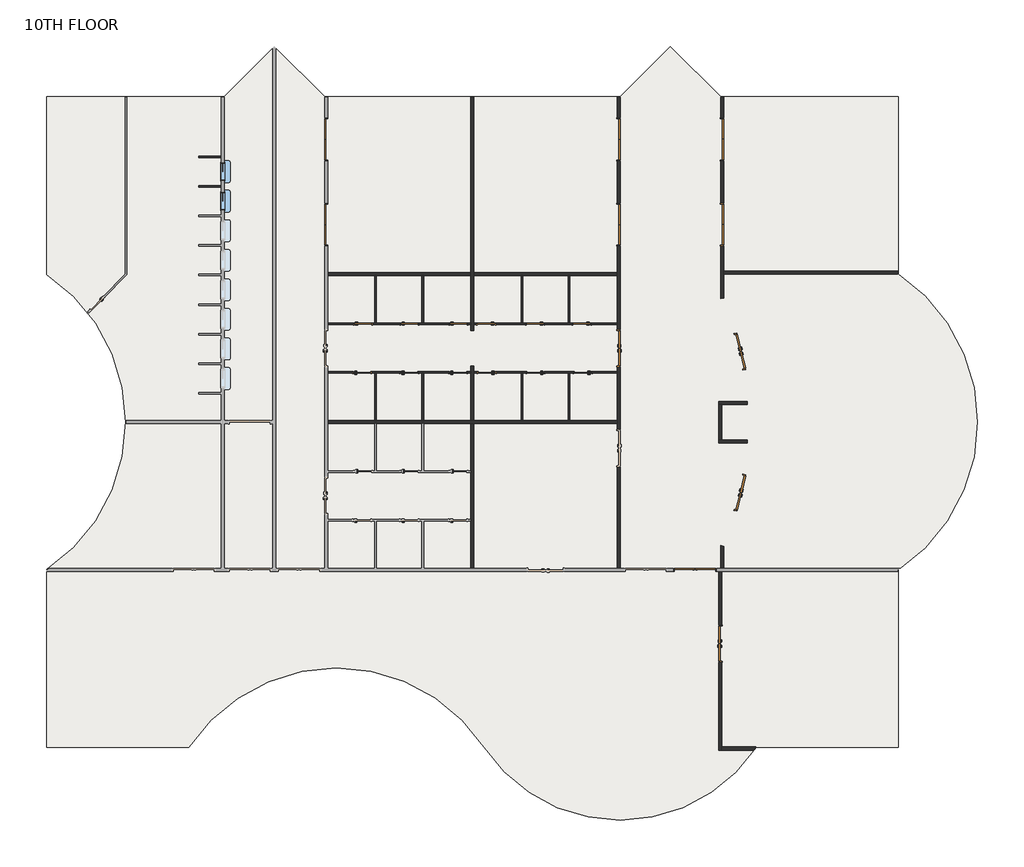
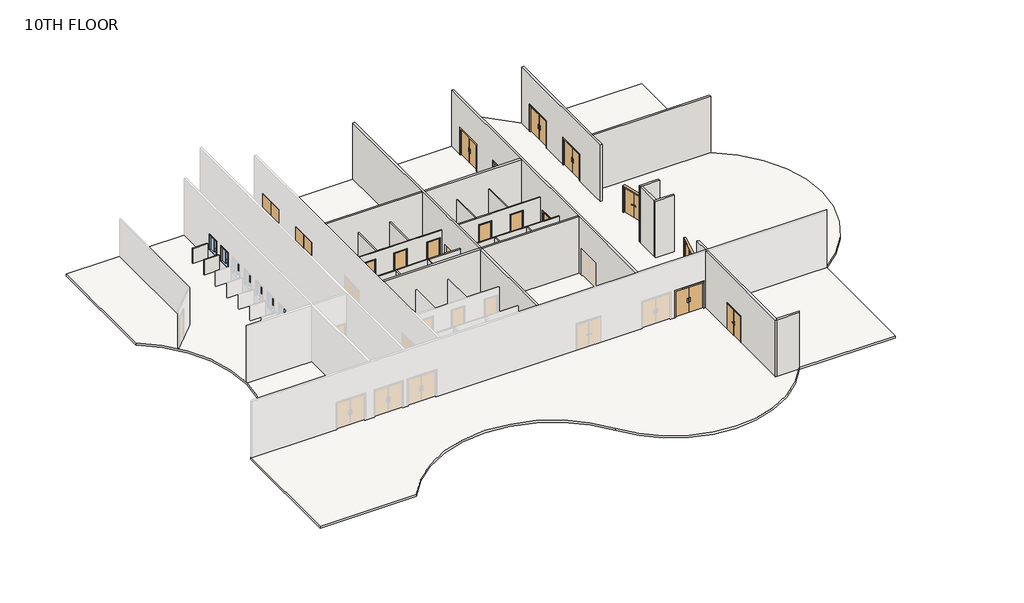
# One storey, part 2 of 2: 26 walls, 23 doors, 2 windows, 1 slab.
"""IFC4 building model written with IfcOpenShell, lengths in millimetres."""

from ifc_helpers import new_model, si_unit, point, frame, frame_2d, origin, place, context, project, spatial, polyline, circle_curve, trimmed, segment, composite_curve, outline, extrude, faceted_brep, transform, mapped, element, save
from ifc_brep_helpers import plane_surface, cylinder_surface, advanced_brep
from components import door_2f250f70, door_df8e76c5, door_0b13e4d9, door_b3a27a16, door_979b1b8c, door_f8b587be, pass_thru_4x3_19d81059

model = new_model("IFC4")

# Units and contexts
model_context = context("Model", 3, world=origin())
ifc_project = project(units=[si_unit("LENGTHUNIT", "METRE", prefix="MILLI")], contexts=[model_context])

# Site, building, storey
site = spatial("IfcSite", under=ifc_project)
building = spatial("IfcBuilding", under=site)
storey = spatial("IfcBuildingStorey", under=building, Name="10TH FLOOR", Elevation=45720.0)

# Doors
placement = place(None, origin())
door_shape = door_2f250f70(model_context)
element("IfcDoor", 1, ObjectType="Door-Passage-Double-Flush : 72\" x 82\"", at=placement, inside=storey, context=model_context, shape_type="MappedRepresentation", body=[
    mapped(door_shape, transform((35885.2621514, 20561.4429091, 45720.0), x_axis=(0.23975975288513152, -0.9708322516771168, 0.0), y_axis=(0.9708322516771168, 0.23975975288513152, 0.0), z_axis=(0.0, 0.0, 1.0))),
])
element("IfcDoor", 2, ObjectType="Door-Passage-Double-Flush : 72\" x 82\"", at=placement, inside=storey, context=model_context, shape_type="MappedRepresentation", body=[
    mapped(door_shape, transform((34887.5089577, 5494.3375, 45720.0), x_axis=(0.0, 1.0, 0.0), y_axis=(-1.0, 0.0, 0.0), z_axis=(0.0, 0.0, 1.0))),
])
door_2_shape = door_df8e76c5(model_context)
element("IfcDoor", 3, ObjectType="Door-Passage-Double-Flush : 72\" x 82\"", at=placement, inside=storey, context=model_context, shape_type="MappedRepresentation", body=[
    mapped(door_2_shape, transform((35886.7385063, 13277.3403388, 45720.0), x_axis=(0.23936619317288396, 0.9709293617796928, 0.0), y_axis=(-0.9709293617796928, 0.23936619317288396, 0.0), z_axis=(0.0, 0.0, 1.0))),
])
element("IfcDoor", 4, ObjectType="Door-Passage-Double-Flush : 72\" x 82\"", at=placement, inside=storey, context=model_context, shape_type="MappedRepresentation", body=[
    mapped(door_2_shape, transform((29628.0650257, 20729.575, 45720.0), x_axis=(0.0, 1.0, 0.0), y_axis=(-1.0, 0.0, 0.0), z_axis=(0.0, 0.0, 1.0))),
])
door_3_shape = door_0b13e4d9(model_context)
element("IfcDoor", 5, ObjectType="Door-Passage-Double-Flush-Dbl_Acting : 84\" x 84\"", at=placement, inside=storey, context=model_context, shape_type="MappedRepresentation", body=[
    mapped(door_3_shape, transform((33564.0300515, 9293.225, 45720.0), x_axis=(-1.0, 0.0, 0.0), y_axis=(0.0, -1.0, 0.0), z_axis=(0.0, 0.0, 1.0))),
])
element("IfcDoor", 6, ObjectType="Door-Passage-Double-Flush-Dbl_Acting : 84\" x 84\"", at=placement, inside=storey, context=model_context, shape_type="MappedRepresentation", body=[
    mapped(door_3_shape, transform((29628.0650257, 31499.175, 45720.0), x_axis=(0.0, 1.0, 0.0), y_axis=(-1.0, 0.0, 0.0), z_axis=(0.0, 0.0, 1.0))),
])
element("IfcDoor", 7, ObjectType="Door-Passage-Double-Flush-Dbl_Acting : 84\" x 84\"", at=placement, inside=storey, context=model_context, shape_type="MappedRepresentation", body=[
    mapped(door_3_shape, transform((29628.0650257, 27101.8, 45720.0), x_axis=(0.0, 1.0, 0.0), y_axis=(-1.0, 0.0, 0.0), z_axis=(0.0, 0.0, 1.0))),
])
door_4_shape = door_b3a27a16(model_context)
element("IfcDoor", 8, ObjectType="Door-Passage-Double-Flush-Dbl_Acting : 84\" x 84\"", at=placement, inside=storey, context=model_context, shape_type="MappedRepresentation", body=[
    mapped(door_4_shape, transform((14556.3400257, 31499.175, 45720.0), x_axis=(0.0, 1.0, 0.0), y_axis=(-1.0, 0.0, 0.0), z_axis=(0.0, 0.0, 1.0))),
])
element("IfcDoor", 9, ObjectType="Door-Passage-Double-Flush-Dbl_Acting : 84\" x 84\"", at=placement, inside=storey, context=model_context, shape_type="MappedRepresentation", body=[
    mapped(door_4_shape, transform((14556.3400257, 27101.8, 45720.0), x_axis=(0.0, 1.0, 0.0), y_axis=(-1.0, 0.0, 0.0), z_axis=(0.0, 0.0, 1.0))),
])
element("IfcDoor", 10, ObjectType="Door-Passage-Double-Flush-Dbl_Acting : 84\" x 84\"", at=placement, inside=storey, context=model_context, shape_type="MappedRepresentation", body=[
    mapped(door_4_shape, transform((34956.2675515, 31499.175, 45720.0), x_axis=(0.0, -1.0, 0.0), y_axis=(1.0, 0.0, 0.0), z_axis=(0.0, 0.0, 1.0))),
])
element("IfcDoor", 11, ObjectType="Door-Passage-Double-Flush-Dbl_Acting : 84\" x 84\"", at=placement, inside=storey, context=model_context, shape_type="MappedRepresentation", body=[
    mapped(door_4_shape, transform((34956.2675515, 27101.8, 45720.0), x_axis=(0.0, -1.0, 0.0), y_axis=(1.0, 0.0, 0.0), z_axis=(0.0, 0.0, 1.0))),
])
door_5_shape = door_979b1b8c(model_context)
element("IfcDoor", 12, ObjectType="Door-Passage-Single-Flush : 36\" x 96\"", at=placement, inside=storey, context=model_context, shape_type="MappedRepresentation", body=[
    mapped(door_5_shape, transform((16456.5775257, 21977.35, 45720.0), x_axis=(1.0, 0.0, 0.0), y_axis=(0.0, 1.0, 0.0), z_axis=(0.0, 0.0, 1.0))),
])
element("IfcDoor", 13, ObjectType="Door-Passage-Single-Flush : 36\" x 96\"", at=placement, inside=storey, context=model_context, shape_type="MappedRepresentation", body=[
    mapped(door_5_shape, transform((18855.2900257, 21977.35, 45720.0), x_axis=(1.0, 0.0, 0.0), y_axis=(0.0, 1.0, 0.0), z_axis=(0.0, 0.0, 1.0))),
])
element("IfcDoor", 14, ObjectType="Door-Passage-Single-Flush : 36\" x 96\"", at=placement, inside=storey, context=model_context, shape_type="MappedRepresentation", body=[
    mapped(door_5_shape, transform((21373.0650257, 21977.35, 45720.0), x_axis=(1.0, 0.0, 0.0), y_axis=(0.0, 1.0, 0.0), z_axis=(0.0, 0.0, 1.0))),
])
element("IfcDoor", 15, ObjectType="Door-Passage-Single-Flush : 36\" x 96\"", at=placement, inside=storey, context=model_context, shape_type="MappedRepresentation", body=[
    mapped(door_5_shape, transform((27778.6275257, 19481.8, 45720.0), x_axis=(-1.0, 0.0, 0.0), y_axis=(0.0, -1.0, 0.0), z_axis=(0.0, 0.0, 1.0))),
])
element("IfcDoor", 16, ObjectType="Door-Passage-Single-Flush : 36\" x 96\"", at=placement, inside=storey, context=model_context, shape_type="MappedRepresentation", body=[
    mapped(door_5_shape, transform((25348.1650257, 19481.8, 45720.0), x_axis=(-1.0, 0.0, 0.0), y_axis=(0.0, -1.0, 0.0), z_axis=(0.0, 0.0, 1.0))),
])
element("IfcDoor", 17, ObjectType="Door-Passage-Single-Flush : 36\" x 96\"", at=placement, inside=storey, context=model_context, shape_type="MappedRepresentation", body=[
    mapped(door_5_shape, transform((22830.3900257, 19481.8, 45720.0), x_axis=(-1.0, 0.0, 0.0), y_axis=(0.0, -1.0, 0.0), z_axis=(0.0, 0.0, 1.0))),
])
door_6_shape = door_f8b587be(model_context)
element("IfcDoor", 18, ObjectType="Door-Passage-Single-Flush : 36\" x 96\"", at=placement, inside=storey, context=model_context, shape_type="MappedRepresentation", body=[
    mapped(door_6_shape, transform((16405.7775257, 19481.8, 45720.0), x_axis=(1.0, 0.0, 0.0), y_axis=(0.0, 1.0, 0.0), z_axis=(0.0, 0.0, 1.0))),
])
element("IfcDoor", 19, ObjectType="Door-Passage-Single-Flush : 36\" x 96\"", at=placement, inside=storey, context=model_context, shape_type="MappedRepresentation", body=[
    mapped(door_6_shape, transform((18836.2400257, 19481.8, 45720.0), x_axis=(1.0, 0.0, 0.0), y_axis=(0.0, 1.0, 0.0), z_axis=(0.0, 0.0, 1.0))),
])
element("IfcDoor", 20, ObjectType="Door-Passage-Single-Flush : 36\" x 96\"", at=placement, inside=storey, context=model_context, shape_type="MappedRepresentation", body=[
    mapped(door_6_shape, transform((21354.0150257, 19481.8, 45720.0), x_axis=(1.0, 0.0, 0.0), y_axis=(0.0, 1.0, 0.0), z_axis=(0.0, 0.0, 1.0))),
])
element("IfcDoor", 21, ObjectType="Door-Passage-Single-Flush : 36\" x 96\"", at=placement, inside=storey, context=model_context, shape_type="MappedRepresentation", body=[
    mapped(door_6_shape, transform((27727.8275257, 21977.35, 45720.0), x_axis=(-1.0, 0.0, 0.0), y_axis=(0.0, -1.0, 0.0), z_axis=(0.0, 0.0, 1.0))),
])
element("IfcDoor", 22, ObjectType="Door-Passage-Single-Flush : 36\" x 96\"", at=placement, inside=storey, context=model_context, shape_type="MappedRepresentation", body=[
    mapped(door_6_shape, transform((25329.1150257, 21977.35, 45720.0), x_axis=(-1.0, 0.0, 0.0), y_axis=(0.0, -1.0, 0.0), z_axis=(0.0, 0.0, 1.0))),
])
element("IfcDoor", 23, ObjectType="Door-Passage-Single-Flush : 36\" x 96\"", at=placement, inside=storey, context=model_context, shape_type="MappedRepresentation", body=[
    mapped(door_6_shape, transform((22811.3400257, 21977.35, 45720.0), x_axis=(-1.0, 0.0, 0.0), y_axis=(0.0, -1.0, 0.0), z_axis=(0.0, 0.0, 1.0))),
])

# Slab
element("IfcSlab", 24, ObjectType="ARCHITECTURAL FINISH FLOOR", at=placement, inside=storey, context=model_context, shape_type="SweptSolid", body=[
    extrude(outline(composite_curve([segment(polyline([(9294.3144878, 33696.275), (11885.8887629, 36287.8492751), (14477.463038, 33696.275), (29706.9420135, 33696.275), (32298.5162886, 36287.8492751), (34890.0905637, 33696.275), (44041.5300515, 33696.275), (44041.5300515, 24546.3877275)]), True, "CONTINUOUS"), segment(trimmed(circle_curve(frame_2d((38974.293871, 16919.575)), 9156.7), [point((44041.5300515, 24546.3877275))], [point((44041.5300515, 9292.7622725))], False, "CARTESIAN"), True, "CONTINUOUS"), segment(polyline([(44041.5300515, 9292.7622725), (44041.5300515, 142.875), (36720.4425102, 142.875)]), True, "CONTINUOUS"), segment(trimmed(circle_curve(frame_2d((29712.2025257, 4799.7966199)), 8414.4130309), [point((36720.4425102, 142.875))], [point((22700.1916667, 148.5548109))], False, "CARTESIAN"), True, "CONTINUOUS"), segment(trimmed(circle_curve(frame_2d((15090.775, -4898.9611805)), 9131.3), [point((22700.1916667, 148.5548109))], [point((7477.593824, 142.875))], True, "CARTESIAN"), True, "CONTINUOUS"), segment(polyline([(7477.593824, 142.875), (142.875, 142.875), (142.875, 9306.393824)]), True, "CONTINUOUS"), segment(trimmed(circle_curve(frame_2d((-4898.9611805, 16919.575)), 9131.3), [point((142.875, 9306.393824))], [point((142.875, 24532.756176))], True, "CARTESIAN"), True, "CONTINUOUS"), segment(polyline([(142.875, 24532.756176), (142.875, 33696.275), (9294.3144878, 33696.275)]), True, "CONTINUOUS")], self_intersect=False)), frame((0.0, 0.0, 45567.6), z_axis=(0.0, 0.0, 1.0), x_axis=(1.0, 0.0, 0.0)), (0.0, 0.0, 1.0), 171.45),
])

# Walls
element("IfcWall", 25, ObjectType="SYR_INT_ONE_HOUR", at=placement, inside=storey, context=model_context, shape_type="SweptSolid", body=[
    extrude(outline(polyline([(17066.1775257, 22023.3875), (17066.1775257, 24461.7875), (17145.5525257, 24461.7875), (17145.5525257, 22023.3875), (17066.1775257, 22023.3875)])), frame((0.0, 0.0, 45720.0), z_axis=(0.0, 0.0, 1.0), x_axis=(1.0, 0.0, 0.0)), (0.0, 0.0, 1.0), 3048.0),
])
element("IfcWall", 26, ObjectType="SYR_INT_ONE_HOUR", at=placement, inside=storey, context=model_context, shape_type="SweptSolid", body=[
    extrude(outline(polyline([(19576.0150257, 19435.7625), (19576.0150257, 16997.3625), (19496.6400257, 16997.3625), (19496.6400257, 19435.7625), (19576.0150257, 19435.7625)])), frame((0.0, 0.0, 45720.0), z_axis=(0.0, 0.0, 1.0), x_axis=(1.0, 0.0, 0.0)), (0.0, 0.0, 1.0), 3048.0),
])
element("IfcWall", 27, ObjectType="SYR_INT_ONE_HOUR", at=placement, inside=storey, context=model_context, shape_type="Brep", body=[
    faceted_brep([(14627.7775257, 22023.3875, 48768.0), (17066.1775257, 22023.3875, 48768.0), (17145.5525257, 22023.3875, 48768.0), (19496.6400257, 22023.3875, 48768.0), (19576.0150257, 22023.3875, 48768.0), (22014.4150257, 22023.3875, 48768.0), (22014.4150257, 22023.3875, 45720.0), (21862.0150257, 22023.3875, 45720.0), (21862.0150257, 22023.3875, 48190.15), (20884.1150257, 22023.3875, 48190.15), (20884.1150257, 22023.3875, 45720.0), (19576.0150257, 22023.3875, 45720.0), (19496.6400257, 22023.3875, 45720.0), (19344.2400257, 22023.3875, 45720.0), (19344.2400257, 22023.3875, 48190.15), (18366.3400257, 22023.3875, 48190.15), (18366.3400257, 22023.3875, 45720.0), (17145.5525257, 22023.3875, 45720.0), (17066.1775257, 22023.3875, 45720.0), (16945.5275257, 22023.3875, 45720.0), (16945.5275257, 22023.3875, 48190.15), (15967.6275257, 22023.3875, 48190.15), (15967.6275257, 22023.3875, 45720.0), (14627.7775257, 22023.3875, 45720.0), (22014.4150257, 21944.0125, 48768.0), (14627.7775257, 21944.0125, 48768.0), (14627.7775257, 21944.0125, 45720.0), (15967.6275257, 21944.0125, 45720.0), (15967.6275257, 21944.0125, 48190.15), (16945.5275257, 21944.0125, 48190.15), (16945.5275257, 21944.0125, 45720.0), (18366.3400257, 21944.0125, 45720.0), (18366.3400257, 21944.0125, 48190.15), (19344.2400257, 21944.0125, 48190.15), (19344.2400257, 21944.0125, 45720.0), (20884.1150257, 21944.0125, 45720.0), (20884.1150257, 21944.0125, 48190.15), (21862.0150257, 21944.0125, 48190.15), (21862.0150257, 21944.0125, 45720.0), (22014.4150257, 21944.0125, 45720.0)], [[[0, 1, 2, 3, 4, 5, 6, 7, 8, 9, 10, 11, 12, 13, 14, 15, 16, 17, 18, 19, 20, 21, 22, 23]], [[24, 25, 26, 27, 28, 29, 30, 31, 32, 33, 34, 35, 36, 37, 38, 39]], [[23, 22, 27, 26]], [[30, 19, 18, 17, 16, 31]], [[34, 13, 12, 11, 10, 35]], [[6, 39, 38, 7]], [[5, 4, 3, 2, 1, 0, 25, 24]], [[29, 20, 19, 30]], [[20, 29, 28, 21]], [[21, 28, 27, 22]], [[14, 13, 34, 33]], [[15, 14, 33, 32]], [[16, 15, 32, 31]], [[37, 8, 7, 38]], [[8, 37, 36, 9]], [[9, 36, 35, 10]], [[0, 23, 26, 25]], [[6, 5, 24, 39]]]),
])
element("IfcWall", 28, ObjectType="SYR_INT_ONE_HOUR", at=placement, inside=storey, context=model_context, shape_type="Brep", body=[
    faceted_brep([(14627.7775257, 19515.1375, 48768.0), (22014.4150257, 19515.1375, 48768.0), (22014.4150257, 19515.1375, 45720.0), (21842.9650257, 19515.1375, 45720.0), (21842.9650257, 19515.1375, 48190.15), (20865.0650257, 19515.1375, 48190.15), (20865.0650257, 19515.1375, 45720.0), (19325.1900257, 19515.1375, 45720.0), (19325.1900257, 19515.1375, 48190.15), (18347.2900257, 19515.1375, 48190.15), (18347.2900257, 19515.1375, 45720.0), (16894.7275257, 19515.1375, 45720.0), (16894.7275257, 19515.1375, 48190.15), (15916.8275257, 19515.1375, 48190.15), (15916.8275257, 19515.1375, 45720.0), (14627.7775257, 19515.1375, 45720.0), (22014.4150257, 19435.7625, 48768.0), (19576.0150257, 19435.7625, 48768.0), (19496.6400257, 19435.7625, 48768.0), (17145.5525257, 19435.7625, 48768.0), (17066.1775257, 19435.7625, 48768.0), (14627.7775257, 19435.7625, 48768.0), (14627.7775257, 19435.7625, 45720.0), (15916.8275257, 19435.7625, 45720.0), (15916.8275257, 19435.7625, 48190.15), (16894.7275257, 19435.7625, 48190.15), (16894.7275257, 19435.7625, 45720.0), (17066.1775257, 19435.7625, 45720.0), (17145.5525257, 19435.7625, 45720.0), (18347.2900257, 19435.7625, 45720.0), (18347.2900257, 19435.7625, 48190.15), (19325.1900257, 19435.7625, 48190.15), (19325.1900257, 19435.7625, 45720.0), (19496.6400257, 19435.7625, 45720.0), (19576.0150257, 19435.7625, 45720.0), (20865.0650257, 19435.7625, 45720.0), (20865.0650257, 19435.7625, 48190.15), (21842.9650257, 19435.7625, 48190.15), (21842.9650257, 19435.7625, 45720.0), (22014.4150257, 19435.7625, 45720.0)], [[[0, 1, 2, 3, 4, 5, 6, 7, 8, 9, 10, 11, 12, 13, 14, 15]], [[16, 17, 18, 19, 20, 21, 22, 23, 24, 25, 26, 27, 28, 29, 30, 31, 32, 33, 34, 35, 36, 37, 38, 39]], [[15, 14, 23, 22]], [[26, 11, 10, 29, 28, 27]], [[32, 7, 6, 35, 34, 33]], [[2, 39, 38, 3]], [[1, 0, 21, 20, 19, 18, 17, 16]], [[25, 12, 11, 26]], [[12, 25, 24, 13]], [[13, 24, 23, 14]], [[31, 8, 7, 32]], [[8, 31, 30, 9]], [[9, 30, 29, 10]], [[37, 4, 3, 38]], [[4, 37, 36, 5]], [[5, 36, 35, 6]], [[0, 15, 22, 21]], [[2, 1, 16, 39]]]),
])
element("IfcWall", 29, ObjectType="SYR_INT_ONE_HOUR", at=placement, inside=storey, context=model_context, shape_type="SweptSolid", body=[
    extrude(outline(polyline([(17066.1775257, 16997.3625), (17066.1775257, 19435.7625), (17145.5525257, 19435.7625), (17145.5525257, 16997.3625), (17066.1775257, 16997.3625)])), frame((0.0, 0.0, 45720.0), z_axis=(0.0, 0.0, 1.0), x_axis=(1.0, 0.0, 0.0)), (0.0, 0.0, 1.0), 3048.0),
])
element("IfcWall", 30, ObjectType="SYR_INT_ONE_HOUR", at=placement, inside=storey, context=model_context, shape_type="SweptSolid", body=[
    extrude(outline(polyline([(19576.0150257, 24461.7875), (19576.0150257, 22023.3875), (19496.6400257, 22023.3875), (19496.6400257, 24461.7875), (19576.0150257, 24461.7875)])), frame((0.0, 0.0, 45720.0), z_axis=(0.0, 0.0, 1.0), x_axis=(1.0, 0.0, 0.0)), (0.0, 0.0, 1.0), 3048.0),
])
element("IfcWall", 31, ObjectType="SYR_INT_ONE_HOUR", at=placement, inside=storey, context=model_context, shape_type="SweptSolid", body=[
    extrude(outline(polyline([(7979.2710938, 29111.575), (9144.0, 29111.575), (9144.0, 29032.2), (7979.2710938, 29032.2), (7979.2710938, 29111.575)])), frame((0.0, 0.0, 45720.0), z_axis=(0.0, 0.0, 1.0), x_axis=(1.0, 0.0, 0.0)), (0.0, 0.0, 1.0), 1219.2),
])
element("IfcWall", 32, ObjectType="SYR_INT_ONE_HOUR", at=placement, inside=storey, context=model_context, shape_type="SweptSolid", body=[
    extrude(outline(polyline([(7979.2710938, 30635.575), (9144.0, 30635.575), (9144.0, 30556.2), (7979.2710938, 30556.2), (7979.2710938, 30635.575)])), frame((0.0, 0.0, 45720.0), z_axis=(0.0, 0.0, 1.0), x_axis=(1.0, 0.0, 0.0)), (0.0, 0.0, 1.0), 1219.2),
])
element("IfcWall", 33, ObjectType="SYR_INT_ONE_HOUR", at=placement, inside=storey, context=model_context, shape_type="SweptSolid", body=[
    extrude(outline(polyline([(27038.8525257, 22023.3875), (27038.8525257, 24461.7875), (27118.2275257, 24461.7875), (27118.2275257, 22023.3875), (27038.8525257, 22023.3875)])), frame((0.0, 0.0, 45720.0), z_axis=(0.0, 0.0, 1.0), x_axis=(1.0, 0.0, 0.0)), (0.0, 0.0, 1.0), 3048.0),
])
element("IfcWall", 34, ObjectType="SYR_INT_ONE_HOUR", at=placement, inside=storey, context=model_context, shape_type="SweptSolid", body=[
    extrude(outline(polyline([(24687.7650257, 19435.7625), (24687.7650257, 16997.3625), (24608.3900257, 16997.3625), (24608.3900257, 19435.7625), (24687.7650257, 19435.7625)])), frame((0.0, 0.0, 45720.0), z_axis=(0.0, 0.0, 1.0), x_axis=(1.0, 0.0, 0.0)), (0.0, 0.0, 1.0), 3048.0),
])
element("IfcWall", 35, ObjectType="SYR_INT_ONE_HOUR", at=placement, inside=storey, context=model_context, shape_type="Brep", body=[
    faceted_brep([(29556.6275257, 21944.0125, 48768.0), (22169.9900257, 21944.0125, 48768.0), (22169.9900257, 21944.0125, 45720.0), (22322.3900257, 21944.0125, 45720.0), (22322.3900257, 21944.0125, 48190.15), (23300.2900257, 21944.0125, 48190.15), (23300.2900257, 21944.0125, 45720.0), (24840.1650257, 21944.0125, 45720.0), (24840.1650257, 21944.0125, 48190.15), (25818.0650257, 21944.0125, 48190.15), (25818.0650257, 21944.0125, 45720.0), (27238.8775257, 21944.0125, 45720.0), (27238.8775257, 21944.0125, 48190.15), (28216.7775257, 21944.0125, 48190.15), (28216.7775257, 21944.0125, 45720.0), (29556.6275257, 21944.0125, 45720.0), (22169.9900257, 22023.3875, 48768.0), (24608.3900257, 22023.3875, 48768.0), (24687.7650257, 22023.3875, 48768.0), (27038.8525257, 22023.3875, 48768.0), (27118.2275257, 22023.3875, 48768.0), (29556.6275257, 22023.3875, 48768.0), (29556.6275257, 22023.3875, 45720.0), (28216.7775257, 22023.3875, 45720.0), (28216.7775257, 22023.3875, 48190.15), (27238.8775257, 22023.3875, 48190.15), (27238.8775257, 22023.3875, 45720.0), (27118.2275257, 22023.3875, 45720.0), (27038.8525257, 22023.3875, 45720.0), (25818.0650257, 22023.3875, 45720.0), (25818.0650257, 22023.3875, 48190.15), (24840.1650257, 22023.3875, 48190.15), (24840.1650257, 22023.3875, 45720.0), (24687.7650257, 22023.3875, 45720.0), (24608.3900257, 22023.3875, 45720.0), (23300.2900257, 22023.3875, 45720.0), (23300.2900257, 22023.3875, 48190.15), (22322.3900257, 22023.3875, 48190.15), (22322.3900257, 22023.3875, 45720.0), (22169.9900257, 22023.3875, 45720.0)], [[[0, 1, 2, 3, 4, 5, 6, 7, 8, 9, 10, 11, 12, 13, 14, 15]], [[16, 17, 18, 19, 20, 21, 22, 23, 24, 25, 26, 27, 28, 29, 30, 31, 32, 33, 34, 35, 36, 37, 38, 39]], [[15, 14, 23, 22]], [[26, 11, 10, 29, 28, 27]], [[32, 7, 6, 35, 34, 33]], [[2, 39, 38, 3]], [[1, 0, 21, 20, 19, 18, 17, 16]], [[25, 12, 11, 26]], [[12, 25, 24, 13]], [[13, 24, 23, 14]], [[8, 7, 32, 31]], [[9, 8, 31, 30]], [[10, 9, 30, 29]], [[37, 4, 3, 38]], [[4, 37, 36, 5]], [[5, 36, 35, 6]], [[0, 15, 22, 21]], [[2, 1, 16, 39]]]),
])
element("IfcWall", 36, ObjectType="SYR_INT_ONE_HOUR", at=placement, inside=storey, context=model_context, shape_type="Brep", body=[
    faceted_brep([(29556.6275257, 19435.7625, 48768.0), (27118.2275257, 19435.7625, 48768.0), (27038.8525257, 19435.7625, 48768.0), (24687.7650257, 19435.7625, 48768.0), (24608.3900257, 19435.7625, 48768.0), (22169.9900257, 19435.7625, 48768.0), (22169.9900257, 19435.7625, 45720.0), (22341.4400257, 19435.7625, 45720.0), (22341.4400257, 19435.7625, 48190.15), (23319.3400257, 19435.7625, 48190.15), (23319.3400257, 19435.7625, 45720.0), (24608.3900257, 19435.7625, 45720.0), (24687.7650257, 19435.7625, 45720.0), (24859.2150257, 19435.7625, 45720.0), (24859.2150257, 19435.7625, 48190.15), (25837.1150257, 19435.7625, 48190.15), (25837.1150257, 19435.7625, 45720.0), (27038.8525257, 19435.7625, 45720.0), (27118.2275257, 19435.7625, 45720.0), (27289.6775257, 19435.7625, 45720.0), (27289.6775257, 19435.7625, 48190.15), (28267.5775257, 19435.7625, 48190.15), (28267.5775257, 19435.7625, 45720.0), (29556.6275257, 19435.7625, 45720.0), (22169.9900257, 19515.1375, 48768.0), (29556.6275257, 19515.1375, 48768.0), (29556.6275257, 19515.1375, 45720.0), (28267.5775257, 19515.1375, 45720.0), (28267.5775257, 19515.1375, 48190.15), (27289.6775257, 19515.1375, 48190.15), (27289.6775257, 19515.1375, 45720.0), (25837.1150257, 19515.1375, 45720.0), (25837.1150257, 19515.1375, 48190.15), (24859.2150257, 19515.1375, 48190.15), (24859.2150257, 19515.1375, 45720.0), (23319.3400257, 19515.1375, 45720.0), (23319.3400257, 19515.1375, 48190.15), (22341.4400257, 19515.1375, 48190.15), (22341.4400257, 19515.1375, 45720.0), (22169.9900257, 19515.1375, 45720.0)], [[[0, 1, 2, 3, 4, 5, 6, 7, 8, 9, 10, 11, 12, 13, 14, 15, 16, 17, 18, 19, 20, 21, 22, 23]], [[24, 25, 26, 27, 28, 29, 30, 31, 32, 33, 34, 35, 36, 37, 38, 39]], [[23, 22, 27, 26]], [[30, 19, 18, 17, 16, 31]], [[34, 13, 12, 11, 10, 35]], [[6, 39, 38, 7]], [[5, 4, 3, 2, 1, 0, 25, 24]], [[29, 20, 19, 30]], [[20, 29, 28, 21]], [[21, 28, 27, 22]], [[33, 14, 13, 34]], [[14, 33, 32, 15]], [[15, 32, 31, 16]], [[37, 8, 7, 38]], [[8, 37, 36, 9]], [[9, 36, 35, 10]], [[0, 23, 26, 25]], [[6, 5, 24, 39]]]),
])
element("IfcWall", 37, ObjectType="SYR_INT_ONE_HOUR", at=placement, inside=storey, context=model_context, shape_type="SweptSolid", body=[
    extrude(outline(polyline([(27038.8525257, 16997.3625), (27038.8525257, 19435.7625), (27118.2275257, 19435.7625), (27118.2275257, 16997.3625), (27038.8525257, 16997.3625)])), frame((0.0, 0.0, 45720.0), z_axis=(0.0, 0.0, 1.0), x_axis=(1.0, 0.0, 0.0)), (0.0, 0.0, 1.0), 3048.0),
])
element("IfcWall", 38, ObjectType="SYR_INT_ONE_HOUR", at=placement, inside=storey, context=model_context, shape_type="SweptSolid", body=[
    extrude(outline(polyline([(24687.7650257, 24461.7875), (24687.7650257, 22023.3875), (24608.3900257, 22023.3875), (24608.3900257, 24461.7875), (24687.7650257, 24461.7875)])), frame((0.0, 0.0, 45720.0), z_axis=(0.0, 0.0, 1.0), x_axis=(1.0, 0.0, 0.0)), (0.0, 0.0, 1.0), 3048.0),
])
element("IfcWall", 39, ObjectType="SYR_INT_TWO_HOUR", at=placement, inside=storey, context=model_context, shape_type="Brep", body=[
    faceted_brep([(34803.3714577, 0.0, 50292.0), (34803.3714577, 9221.7875, 50292.0), (34803.3714577, 9221.7875, 45720.0), (34803.3714577, 6459.5375, 45720.0), (34803.3714577, 6459.5375, 47904.4), (34803.3714577, 4529.1375, 47904.4), (34803.3714577, 4529.1375, 45720.0), (34803.3714577, 0.0, 45720.0), (34958.9464577, 9221.7875, 50292.0), (34958.9464577, 155.575, 50292.0), (34958.9464577, 0.0, 50292.0), (34958.9464577, 0.0, 45720.0), (34958.9464577, 155.575, 45720.0), (34958.9464577, 4529.1375, 45720.0), (34958.9464577, 4529.1375, 47904.4), (34958.9464577, 6459.5375, 47904.4), (34958.9464577, 6459.5375, 45720.0), (34958.9464577, 9221.7875, 45720.0)], [[[0, 1, 2, 3, 4, 5, 6, 7]], [[8, 9, 10, 11, 12, 13, 14, 15, 16, 17]], [[2, 17, 16, 3]], [[11, 7, 6, 13, 12]], [[1, 0, 10, 9, 8]], [[2, 1, 8, 17]], [[0, 7, 11, 10]], [[15, 4, 3, 16]], [[4, 15, 14, 5]], [[5, 14, 13, 6]]]),
])
element("IfcWall", 40, ObjectType="SYR_INT_TWO_HOUR", at=placement, inside=storey, context=model_context, shape_type="SweptSolid", body=[
    extrude(outline(composite_curve([segment(polyline([(36607.9065696, 0.0), (34958.9464577, 0.0), (34958.9464577, 155.575), (36713.6300515, 155.575)]), True, "CONTINUOUS"), segment(trimmed(circle_curve(frame_2d((29712.2025257, 4799.7966199)), 8401.7130309), [point((36713.6300515, 155.575))], [point((36607.9065696, 0.0))], False, "CARTESIAN"), True, "CONTINUOUS")], self_intersect=False)), frame((0.0, 0.0, 45720.0), z_axis=(0.0, 0.0, 1.0), x_axis=(1.0, 0.0, 0.0)), (0.0, 0.0, 1.0), 4572.0),
])
element("IfcWall", 41, ObjectType="SYR_INT_TWO_HOUR", at=placement, inside=storey, context=model_context, shape_type="Brep", body=[
    faceted_brep([(29556.6275257, 9377.3625, 50292.0), (29556.6275257, 16841.7875, 50292.0), (29556.6275257, 16997.3625, 50292.0), (29556.6275257, 24461.7875, 50292.0), (29556.6275257, 24617.3625, 50292.0), (29556.6275257, 33683.575, 50292.0), (29556.6275257, 33683.575, 45720.0), (29556.6275257, 32616.775, 45720.0), (29556.6275257, 32616.775, 47955.2), (29556.6275257, 30381.575, 47955.2), (29556.6275257, 30381.575, 45720.0), (29556.6275257, 28219.4, 45720.0), (29556.6275257, 28219.4, 47955.2), (29556.6275257, 25984.2, 47955.2), (29556.6275257, 25984.2, 45720.0), (29556.6275257, 24617.3625, 45720.0), (29556.6275257, 24461.7875, 45720.0), (29556.6275257, 22023.3875, 45720.0), (29556.6275257, 21944.0125, 45720.0), (29556.6275257, 21694.775, 45720.0), (29556.6275257, 21694.775, 47904.4), (29556.6275257, 19764.375, 47904.4), (29556.6275257, 19764.375, 45720.0), (29556.6275257, 19515.1375, 45720.0), (29556.6275257, 19435.7625, 45720.0), (29556.6275257, 16997.3625, 45720.0), (29556.6275257, 16841.7875, 45720.0), (29556.6275257, 16536.9875, 45720.0), (29556.6275257, 16536.9875, 47904.4), (29556.6275257, 14606.5875, 47904.4), (29556.6275257, 14606.5875, 45720.0), (29556.6275257, 9377.3625, 45720.0), (29712.2025257, 33683.575, 50292.0), (29712.2025257, 9377.3625, 50292.0), (29712.2025257, 9377.3625, 45720.0), (29712.2025257, 14606.5875, 45720.0), (29712.2025257, 14606.5875, 47904.4), (29712.2025257, 16536.9875, 47904.4), (29712.2025257, 16536.9875, 45720.0), (29712.2025257, 19764.375, 45720.0), (29712.2025257, 19764.375, 47904.4), (29712.2025257, 21694.775, 47904.4), (29712.2025257, 21694.775, 45720.0), (29712.2025257, 25984.2, 45720.0), (29712.2025257, 25984.2, 47955.2), (29712.2025257, 28219.4, 47955.2), (29712.2025257, 28219.4, 45720.0), (29712.2025257, 30381.575, 45720.0), (29712.2025257, 30381.575, 47955.2), (29712.2025257, 32616.775, 47955.2), (29712.2025257, 32616.775, 45720.0), (29712.2025257, 33683.575, 45720.0)], [[[0, 1, 2, 3, 4, 5, 6, 7, 8, 9, 10, 11, 12, 13, 14, 15, 16, 17, 18, 19, 20, 21, 22, 23, 24, 25, 26, 27, 28, 29, 30, 31]], [[32, 33, 34, 35, 36, 37, 38, 39, 40, 41, 42, 43, 44, 45, 46, 47, 48, 49, 50, 51]], [[34, 31, 30, 35]], [[42, 19, 18, 17, 16, 15, 14, 43]], [[22, 39, 38, 27, 26, 25, 24, 23]], [[46, 11, 10, 47]], [[7, 6, 51, 50]], [[5, 4, 3, 2, 1, 0, 33, 32]], [[0, 31, 34, 33]], [[41, 20, 19, 42]], [[20, 41, 40, 21]], [[21, 40, 39, 22]], [[45, 12, 11, 46]], [[12, 45, 44, 13]], [[13, 44, 43, 14]], [[49, 8, 7, 50]], [[8, 49, 48, 9]], [[9, 48, 47, 10]], [[29, 36, 35, 30]], [[36, 29, 28, 37]], [[37, 28, 27, 38]], [[6, 5, 32, 51]]]),
])
element("IfcWall", 42, ObjectType="SYR_INT_TWO_HOUR", at=placement, inside=storey, context=model_context, shape_type="Brep", body=[
    faceted_brep([(34884.8300515, 23286.7810764, 50292.0), (34884.8300515, 33683.575, 50292.0), (34884.8300515, 33683.575, 45720.0), (34884.8300515, 32616.775, 45720.0), (34884.8300515, 32616.775, 47955.2), (34884.8300515, 30381.575, 47955.2), (34884.8300515, 30381.575, 45720.0), (34884.8300515, 28219.4, 45720.0), (34884.8300515, 28219.4, 47955.2), (34884.8300515, 25984.2, 47955.2), (34884.8300515, 25984.2, 45720.0), (34884.8300515, 23286.7810764, 45720.0), (35040.4050515, 33683.575, 50292.0), (35040.4050515, 24695.15, 50292.0), (35040.4050515, 24539.575, 50292.0), (35040.4050515, 23320.9573614, 50292.0), (35040.4050515, 23320.9573614, 45720.0), (35040.4050515, 24539.575, 45720.0), (35040.4050515, 24695.15, 45720.0), (35040.4050515, 25984.2, 45720.0), (35040.4050515, 25984.2, 47955.2), (35040.4050515, 28219.4, 47955.2), (35040.4050515, 28219.4, 45720.0), (35040.4050515, 30381.575, 45720.0), (35040.4050515, 30381.575, 47955.2), (35040.4050515, 32616.775, 47955.2), (35040.4050515, 32616.775, 45720.0), (35040.4050515, 33683.575, 45720.0)], [[[0, 1, 2, 3, 4, 5, 6, 7, 8, 9, 10, 11]], [[12, 13, 14, 15, 16, 17, 18, 19, 20, 21, 22, 23, 24, 25, 26, 27]], [[16, 11, 10, 19, 18, 17]], [[3, 2, 27, 26]], [[6, 23, 22, 7]], [[1, 0, 15, 14, 13, 12]], [[0, 11, 16, 15]], [[5, 24, 23, 6]], [[24, 5, 4, 25]], [[25, 4, 3, 26]], [[9, 20, 19, 10]], [[20, 9, 8, 21]], [[21, 8, 7, 22]], [[2, 1, 12, 27]]]),
])
element("IfcWall", 43, ObjectType="SYR_INT_TWO_HOUR", at=placement, inside=storey, context=model_context, shape_type="Brep", body=[
    faceted_brep([(14627.7775257, 16841.7875, 45720.0), (17066.1775257, 16841.7875, 45720.0), (17145.5525257, 16841.7875, 45720.0), (19496.6400257, 16841.7875, 45720.0), (19576.0150257, 16841.7875, 45720.0), (22014.4150257, 16841.7875, 45720.0), (22169.9900257, 16841.7875, 45720.0), (29556.6275257, 16841.7875, 45720.0), (29556.6275257, 16841.7875, 50292.0), (22169.9900257, 16841.7875, 50292.0), (22014.4150257, 16841.7875, 50292.0), (14627.7775257, 16841.7875, 50292.0), (14627.7775257, 16997.3625, 45720.0), (14627.7775257, 16997.3625, 50292.0), (22014.4150257, 16997.3625, 50292.0), (22169.9900257, 16997.3625, 50292.0), (29556.6275257, 16997.3625, 50292.0), (29556.6275257, 16997.3625, 45720.0), (27118.2275257, 16997.3625, 45720.0), (27038.8525257, 16997.3625, 45720.0), (24687.7650257, 16997.3625, 45720.0), (24608.3900257, 16997.3625, 45720.0), (22169.9900257, 16997.3625, 45720.0), (22014.4150257, 16997.3625, 45720.0), (19576.0150257, 16997.3625, 45720.0), (19496.6400257, 16997.3625, 45720.0), (17145.5525257, 16997.3625, 45720.0), (17066.1775257, 16997.3625, 45720.0)], [[[0, 1, 2, 3, 4, 5, 6, 7, 8, 9, 10, 11]], [[12, 13, 14, 15, 16, 17, 18, 19, 20, 21, 22, 23, 24, 25, 26, 27]], [[7, 6, 5, 4, 3, 2, 1, 0, 12, 27, 26, 25, 24, 23, 22, 21, 20, 19, 18, 17]], [[11, 10, 9, 8, 16, 15, 14, 13]], [[0, 11, 13, 12]], [[8, 7, 17, 16]]]),
])
element("IfcWall", 44, ObjectType="SYR_INT_TWO_HOUR", at=placement, inside=storey, context=model_context, shape_type="Brep", body=[
    faceted_brep([(22169.9900257, 9377.3625, 50292.0), (22169.9900257, 9377.3625, 45720.0), (22169.9900257, 16841.7875, 45720.0), (22169.9900257, 16841.7875, 50292.0), (22014.4150257, 9377.3625, 45720.0), (22014.4150257, 9377.3625, 50292.0), (22014.4150257, 16841.7875, 50292.0), (22014.4150257, 16841.7875, 45720.0), (22014.4150257, 14403.3875, 45720.0), (22014.4150257, 14324.0125, 45720.0), (22014.4150257, 11895.1375, 45720.0), (22014.4150257, 11815.7625, 45720.0)], [[[0, 1, 2, 3]], [[4, 5, 6, 7, 8, 9, 10, 11]], [[1, 4, 11, 10, 9, 8, 7, 2]], [[5, 0, 3, 6]], [[1, 0, 5, 4]], [[3, 2, 7, 6]]]),
    faceted_brep([(22169.9900257, 19815.175, 45720.0), (22169.9900257, 19815.175, 47853.6), (22169.9900257, 21643.975, 47853.6), (22169.9900257, 21643.975, 45720.0), (22169.9900257, 21944.0125, 45720.0), (22169.9900257, 22023.3875, 45720.0), (22169.9900257, 24461.7875, 45720.0), (22169.9900257, 24617.3625, 45720.0), (22169.9900257, 33683.575, 45720.0), (22169.9900257, 33683.575, 50292.0), (22169.9900257, 24617.3625, 50292.0), (22169.9900257, 24461.7875, 50292.0), (22169.9900257, 16997.3625, 50292.0), (22169.9900257, 16997.3625, 45720.0), (22169.9900257, 19435.7625, 45720.0), (22169.9900257, 19515.1375, 45720.0), (22014.4150257, 19815.175, 47853.6), (22014.4150257, 19815.175, 45720.0), (22014.4150257, 19515.1375, 45720.0), (22014.4150257, 19435.7625, 45720.0), (22014.4150257, 16997.3625, 45720.0), (22014.4150257, 16997.3625, 50292.0), (22014.4150257, 24461.7875, 50292.0), (22014.4150257, 24617.3625, 50292.0), (22014.4150257, 33683.575, 50292.0), (22014.4150257, 33683.575, 45720.0), (22014.4150257, 24617.3625, 45720.0), (22014.4150257, 24461.7875, 45720.0), (22014.4150257, 22023.3875, 45720.0), (22014.4150257, 21944.0125, 45720.0), (22014.4150257, 21643.975, 45720.0), (22014.4150257, 21643.975, 47853.6)], [[[0, 1, 2, 3, 4, 5, 6, 7, 8, 9, 10, 11, 12, 13, 14, 15]], [[16, 17, 18, 19, 20, 21, 22, 23, 24, 25, 26, 27, 28, 29, 30, 31]], [[17, 0, 15, 14, 13, 20, 19, 18]], [[3, 30, 29, 28, 27, 26, 25, 8, 7, 6, 5, 4]], [[9, 24, 23, 22, 21, 12, 11, 10]], [[13, 12, 21, 20]], [[17, 16, 1, 0]], [[31, 30, 3, 2]], [[16, 31, 2, 1]], [[9, 8, 25, 24]]]),
])
element("IfcWall", 45, ObjectType="SYR_INT_TWO_HOUR", at=placement, inside=storey, context=model_context, shape_type="Brep", body=[
    faceted_brep([(14627.7775257, 24461.7875, 50292.0), (14627.7775257, 24461.7875, 45720.0), (17066.1775257, 24461.7875, 45720.0), (17145.5525257, 24461.7875, 45720.0), (19496.6400257, 24461.7875, 45720.0), (19576.0150257, 24461.7875, 45720.0), (22014.4150257, 24461.7875, 45720.0), (22014.4150257, 24461.7875, 50292.0), (14627.7775257, 24617.3625, 45720.0), (14627.7775257, 24617.3625, 50292.0), (22014.4150257, 24617.3625, 50292.0), (22014.4150257, 24617.3625, 45720.0)], [[[0, 1, 2, 3, 4, 5, 6, 7]], [[8, 9, 10, 11]], [[1, 8, 11, 6, 5, 4, 3, 2]], [[9, 0, 7, 10]], [[1, 0, 9, 8]], [[7, 6, 11, 10]]]),
    faceted_brep([(29556.6275257, 24461.7875, 45720.0), (29556.6275257, 24461.7875, 50292.0), (22169.9900257, 24461.7875, 50292.0), (22169.9900257, 24461.7875, 45720.0), (24608.3900257, 24461.7875, 45720.0), (24687.7650257, 24461.7875, 45720.0), (27038.8525257, 24461.7875, 45720.0), (27118.2275257, 24461.7875, 45720.0), (29556.6275257, 24617.3625, 50292.0), (29556.6275257, 24617.3625, 45720.0), (22169.9900257, 24617.3625, 45720.0), (22169.9900257, 24617.3625, 50292.0)], [[[0, 1, 2, 3, 4, 5, 6, 7]], [[8, 9, 10, 11]], [[9, 0, 7, 6, 5, 4, 3, 10]], [[1, 8, 11, 2]], [[1, 0, 9, 8]], [[3, 2, 11, 10]]]),
])
element("IfcWall", 46, ObjectType="SYR_INT_TWO_HOUR", at=placement, inside=storey, context=model_context, shape_type="SweptSolid", body=[
    extrude(outline(polyline([(35040.4050515, 24695.15), (44028.8300515, 24695.15), (44028.8300515, 24539.575), (35040.4050515, 24539.575), (35040.4050515, 24695.15)])), frame((0.0, 0.0, 45720.0), z_axis=(0.0, 0.0, 1.0), x_axis=(1.0, 0.0, 0.0)), (0.0, 0.0, 1.0), 4572.0),
])
element("IfcWall", 47, ObjectType="SYR_INT_TWO_HOUR", at=placement, inside=storey, context=model_context, shape_type="SweptSolid", body=[
    extrude(outline(polyline([(34884.8300515, 9377.3625), (34884.8300515, 10546.0189236), (35040.4050515, 10511.8426386), (35040.4050515, 9377.3625), (34884.8300515, 9377.3625)])), frame((0.0, 0.0, 45720.0), z_axis=(0.0, 0.0, 1.0), x_axis=(1.0, 0.0, 0.0)), (0.0, 0.0, 1.0), 4572.0),
])
element("IfcWall", 48, ObjectType="SYR_INT_TWO_HOUR", at=placement, inside=storey, context=model_context, shape_type="AdvancedBrep", body=[
    advanced_brep(
    [(36260.4137436, 16002.0, 45720.0), (34939.3011452, 16002.0, 45720.0), (34783.7261452, 16002.0, 45720.0), (34783.7261452, 16002.0, 50292.0), (34939.3011452, 16002.0, 50292.0), (36260.4137436, 16002.0, 50292.0), (36250.2111967, 15846.425, 45720.0), (36250.2111967, 15846.425, 50292.0), (34783.7261452, 15846.425, 50292.0), (34783.7261452, 15846.425, 45720.0)],
    [
        (0, 1),
        (1, 2),
        (2, 3),
        (3, 4),
        (4, 5),
        (5, 0),
        (6, 7),
        (7, 8),
        (8, 9),
        (9, 6),
        (0, 6, circle_curve(frame((21125.7990959, 16916.4, 45720.0), z_axis=(0.0, 0.0, -1.0), x_axis=(1.0, 0.0, 0.0)), 15162.2125)),
        (9, 2),
        (3, 8),
        (7, 5, circle_curve(frame((21125.7990959, 16916.4, 50292.0), z_axis=(0.0, 0.0, 1.0), x_axis=(1.0, 0.0, 0.0)), 15162.2125)),
    ],
    [
        plane_surface(frame((36365.7990959, 16002.0, 45720.0), z_axis=(0.0, 1.0, 0.0), x_axis=(-1.0, 0.0, 0.0))),
        plane_surface(frame((36365.7990959, 15846.425, 45720.0), z_axis=(0.0, -1.0, 0.0), x_axis=(1.0, 0.0, 0.0))),
        plane_surface(frame((36333.467029, 16002.0, 45720.0), z_axis=(0.0, 0.0, -1.0), x_axis=(0.0, -1.0, 0.0))),
        plane_surface(frame((34861.5136452, 16002.0, 50292.0), z_axis=(0.0, 0.0, 1.0), x_axis=(0.0, -1.0, 0.0))),
        cylinder_surface(frame((21125.7990959, 16916.4, 45720.0), z_axis=(0.0, 0.0, -1.0), x_axis=(1.0, 0.0, 0.0)), 15162.2125),
        plane_surface(frame((34783.7261452, 17087.0102762, 45720.0), z_axis=(-1.0, 0.0, 0.0), x_axis=(0.0, -1.0, 0.0))),
    ],
    [
        (0, [[1, 2, 3, 4, 5, 6]]),
        (1, [[7, 8, 9, 10]]),
        (2, [[-2, -1, 11, -10, 12]]),
        (3, [[-5, -4, 13, -8, 14]]),
        (4, [[-6, -14, -7, -11]]),
        (5, [[-3, -12, -9, -13]]),
    ],
),
])
element("IfcWall", 49, ObjectType="SYR_INT_TWO_HOUR", at=placement, inside=storey, context=model_context, shape_type="AdvancedBrep", body=[
    advanced_brep(
    [(34783.7261452, 17830.8, 45720.0), (34939.3011452, 17830.8, 45720.0), (36260.4137436, 17830.8, 45720.0), (36260.4137436, 17830.8, 50292.0), (34939.3011452, 17830.8, 50292.0), (34783.7261452, 17830.8, 50292.0), (34783.7261452, 17986.375, 45720.0), (34783.7261452, 17986.375, 50292.0), (36250.2111967, 17986.375, 50292.0), (36250.2111967, 17986.375, 45720.0)],
    [
        (0, 1),
        (1, 2),
        (2, 3),
        (3, 4),
        (4, 5),
        (5, 0),
        (6, 7),
        (7, 8),
        (8, 9),
        (9, 6),
        (0, 6),
        (9, 2, circle_curve(frame((21125.7990959, 16916.4, 45720.0), z_axis=(0.0, 0.0, -1.0), x_axis=(1.0, 0.0, 0.0)), 15162.2125)),
        (3, 8, circle_curve(frame((21125.7990959, 16916.4, 50292.0), z_axis=(0.0, 0.0, 1.0), x_axis=(1.0, 0.0, 0.0)), 15162.2125)),
        (7, 5),
    ],
    [
        plane_surface(frame((34892.5990959, 17830.8, 45720.0), z_axis=(0.0, -1.0, 0.0), x_axis=(1.0, 0.0, 0.0))),
        plane_surface(frame((34892.5990959, 17986.375, 45720.0), z_axis=(0.0, 1.0, 0.0), x_axis=(-1.0, 0.0, 0.0))),
        plane_surface(frame((34861.5136452, 17830.8, 45720.0), z_axis=(0.0, 0.0, -1.0), x_axis=(0.0, 1.0, 0.0))),
        plane_surface(frame((36333.467029, 17830.8, 50292.0), z_axis=(0.0, 0.0, 1.0), x_axis=(0.0, 1.0, 0.0))),
        cylinder_surface(frame((21125.7990959, 16916.4, 45720.0), z_axis=(0.0, 0.0, -1.0), x_axis=(1.0, 0.0, 0.0)), 15162.2125),
        plane_surface(frame((34783.7261452, 17087.0102762, 45720.0), z_axis=(-1.0, 0.0, 0.0), x_axis=(0.0, -1.0, 0.0))),
    ],
    [
        (0, [[1, 2, 3, 4, 5, 6]]),
        (1, [[7, 8, 9, 10]]),
        (2, [[-2, -1, 11, -10, 12]]),
        (3, [[-5, -4, 13, -8, 14]]),
        (4, [[-3, -12, -9, -13]]),
        (5, [[-6, -14, -7, -11]]),
    ],
),
])
element("IfcWall", 50, ObjectType="SYR_INT_TWO_HOUR", at=placement, inside=storey, context=model_context, shape_type="SweptSolid", body=[
    extrude(outline(polyline([(34939.3011452, 17830.8), (34939.3011452, 16002.0), (34783.7261452, 16002.0), (34783.7261452, 17830.8), (34939.3011452, 17830.8)])), frame((0.0, 0.0, 45720.0), z_axis=(0.0, 0.0, 1.0), x_axis=(1.0, 0.0, 0.0)), (0.0, 0.0, 1.0), 4572.0),
])

# Windows
pass_thru_4x3_shape = pass_thru_4x3_19d81059(model_context)
element("IfcWindow", 51, ObjectType="Pass thru : 4x3", at=placement, inside=storey, context=model_context, shape_type="MappedRepresentation", body=[
    mapped(pass_thru_4x3_shape, transform((9221.7875, 28309.8875, 45720.0), x_axis=(0.0, 1.0, 0.0), y_axis=(-1.0, 0.0, 0.0), z_axis=(0.0, 0.0, 1.0))),
])
element("IfcWindow", 52, ObjectType="Pass thru : 4x3", at=placement, inside=storey, context=model_context, shape_type="MappedRepresentation", body=[
    mapped(pass_thru_4x3_shape, transform((9221.7875, 29833.8875, 45720.0), x_axis=(0.0, 1.0, 0.0), y_axis=(-1.0, 0.0, 0.0), z_axis=(0.0, 0.0, 1.0))),
])

save(model, "model.ifc")
